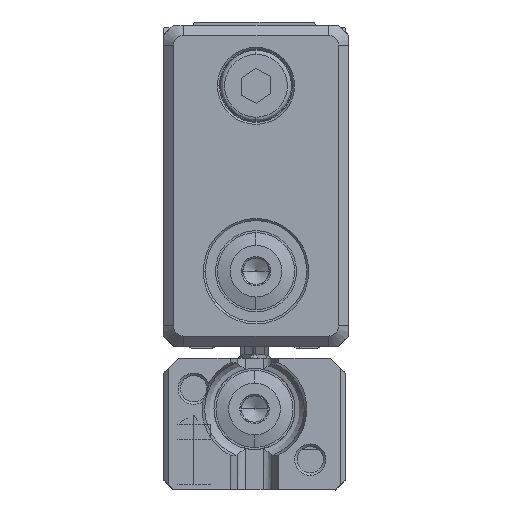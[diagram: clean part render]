
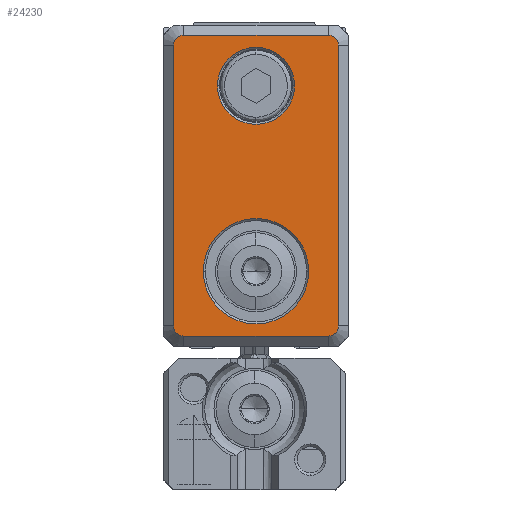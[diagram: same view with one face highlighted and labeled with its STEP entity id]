
A CAD part, left-side view. The second image highlights one B-rep face of the part: STEP entity #24230.
In plain terms, the highlighted planar face has unit normal (-1, 0, 0).
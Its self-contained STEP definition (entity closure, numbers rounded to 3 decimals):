
#14120=CARTESIAN_POINT('',(-527.138,31.,
-50.583));
#14130=VERTEX_POINT('',#14120);
#14940=CARTESIAN_POINT('',(-527.138,30.,
-51.583));
#14950=VERTEX_POINT('',#14940);
#14980=CARTESIAN_POINT('',(-527.138,31.,
-51.583));
#14990=DIRECTION('',(1.,0.,0.));
#15000=DIRECTION('',(0.,1.,0.));
#15010=AXIS2_PLACEMENT_3D('',#14980,#14990,#15000);
#15020=CIRCLE('',#15010,1.);
#15030=EDGE_CURVE('',#14130,#14950,#15020,.T.);
#23280=CARTESIAN_POINT('',(-527.138,38.15,
-65.583));
#23290=DIRECTION('',(1.,0.,0.));
#23300=DIRECTION('',(0.,1.,0.));
#23310=AXIS2_PLACEMENT_3D('',#23280,#23290,#23300);
#23320=PLANE('',#23310);
#23330=CARTESIAN_POINT('',(-527.138,38.15,
-56.983));
#23340=DIRECTION('',(1.,0.,0.));
#23350=DIRECTION('',(0.,-1.,0.));
#23360=AXIS2_PLACEMENT_3D('',#23330,#23340,#23350);
#23370=CIRCLE('',#23360,5.2);
#23380=CARTESIAN_POINT('',(-527.138,32.95,
-56.983));
#23390=VERTEX_POINT('',#23380);
#23400=CARTESIAN_POINT('',(-527.138,43.35,
-56.983));
#23410=VERTEX_POINT('',#23400);
#23420=EDGE_CURVE('',#23390,#23410,#23370,.T.);
#23430=ORIENTED_EDGE('',*,*,#23420,.T.);
#23440=EDGE_CURVE('',#23410,#23390,#23370,.T.);
#23450=ORIENTED_EDGE('',*,*,#23440,.T.);
#23460=EDGE_LOOP('',(#23450,#23430));
#23470=FACE_BOUND('',#23460,.T.);
#23480=CARTESIAN_POINT('',(-527.138,38.15,
-75.283));
#23490=DIRECTION('',(-1.,0.,0.));
#23500=DIRECTION('',(0.,1.,0.));
#23510=AXIS2_PLACEMENT_3D('',#23480,#23490,#23500);
#23520=CIRCLE('',#23510,3.8);
#23530=CARTESIAN_POINT('',(-527.138,34.35,
-75.283));
#23540=VERTEX_POINT('',#23530);
#23550=CARTESIAN_POINT('',(-527.138,41.95,
-75.283));
#23560=VERTEX_POINT('',#23550);
#23570=EDGE_CURVE('',#23540,#23560,#23520,.T.);
#23580=ORIENTED_EDGE('',*,*,#23570,.F.);
#23590=EDGE_CURVE('',#23560,#23540,#23520,.T.);
#23600=ORIENTED_EDGE('',*,*,#23590,.F.);
#23610=EDGE_LOOP('',(#23600,#23580));
#23620=FACE_BOUND('',#23610,.T.);
#23630=CARTESIAN_POINT('',(-527.138,46.75,
-80.283));
#23640=DIRECTION('',(0.,-1.,0.));
#23650=VECTOR('',#23640,1.);
#23660=LINE('',#23630,#23650);
#23670=CARTESIAN_POINT('',(-527.138,45.3,
-80.283));
#23680=VERTEX_POINT('',#23670);
#23690=CARTESIAN_POINT('',(-527.138,31.,
-80.283));
#23700=VERTEX_POINT('',#23690);
#23710=EDGE_CURVE('',#23680,#23700,#23660,.T.);
#23720=ORIENTED_EDGE('',*,*,#23710,.T.);
#23730=CARTESIAN_POINT('',(-527.138,45.3,
-79.283));
#23740=DIRECTION('',(1.,0.,0.));
#23750=DIRECTION('',(0.,1.,0.));
#23760=AXIS2_PLACEMENT_3D('',#23730,#23740,#23750);
#23770=CIRCLE('',#23760,1.);
#23780=CARTESIAN_POINT('',(-527.138,46.3,
-79.283));
#23790=VERTEX_POINT('',#23780);
#23800=EDGE_CURVE('',#23680,#23790,#23770,.T.);
#23810=ORIENTED_EDGE('',*,*,#23800,.F.);
#23820=CARTESIAN_POINT('',(-527.138,46.3,
-49.133));
#23830=DIRECTION('',(0.,0.,-1.));
#23840=VECTOR('',#23830,1.);
#23850=LINE('',#23820,#23840);
#23860=CARTESIAN_POINT('',(-527.138,46.3,
-51.583));
#23870=VERTEX_POINT('',#23860);
#23880=EDGE_CURVE('',#23870,#23790,#23850,.T.);
#23890=ORIENTED_EDGE('',*,*,#23880,.T.);
#23900=CARTESIAN_POINT('',(-527.138,45.3,
-51.583));
#23910=DIRECTION('',(1.,0.,0.));
#23920=DIRECTION('',(0.,1.,0.));
#23930=AXIS2_PLACEMENT_3D('',#23900,#23910,#23920);
#23940=CIRCLE('',#23930,1.);
#23950=CARTESIAN_POINT('',(-527.138,45.3,
-50.583));
#23960=VERTEX_POINT('',#23950);
#23970=EDGE_CURVE('',#23870,#23960,#23940,.T.);
#23980=ORIENTED_EDGE('',*,*,#23970,.F.);
#23990=CARTESIAN_POINT('',(-527.138,46.75,
-50.583));
#24000=DIRECTION('',(0.,1.,0.));
#24010=VECTOR('',#24000,1.);
#24020=LINE('',#23990,#24010);
#24030=EDGE_CURVE('',#14130,#23960,#24020,.T.);
#24040=ORIENTED_EDGE('',*,*,#24030,.T.);
#24050=ORIENTED_EDGE('',*,*,#15030,.F.);
#24060=CARTESIAN_POINT('',(-527.138,30.,
-49.133));
#24070=DIRECTION('',(0.,0.,1.));
#24080=VECTOR('',#24070,1.);
#24090=LINE('',#24060,#24080);
#24100=CARTESIAN_POINT('',(-527.138,30.,
-79.283));
#24110=VERTEX_POINT('',#24100);
#24120=EDGE_CURVE('',#24110,#14950,#24090,.T.);
#24130=ORIENTED_EDGE('',*,*,#24120,.T.);
#24140=CARTESIAN_POINT('',(-527.138,31.,
-79.283));
#24150=DIRECTION('',(1.,0.,0.));
#24160=DIRECTION('',(0.,1.,0.));
#24170=AXIS2_PLACEMENT_3D('',#24140,#24150,#24160);
#24180=CIRCLE('',#24170,1.);
#24190=EDGE_CURVE('',#24110,#23700,#24180,.T.);
#24200=ORIENTED_EDGE('',*,*,#24190,.F.);
#24210=EDGE_LOOP('',(#24200,#24130,#24050,#24040,#23980,#23890,#23810,
#23720));
#24220=FACE_OUTER_BOUND('',#24210,.T.);
#24230=ADVANCED_FACE('',(#23470,#23620,#24220),#23320,.F.);
